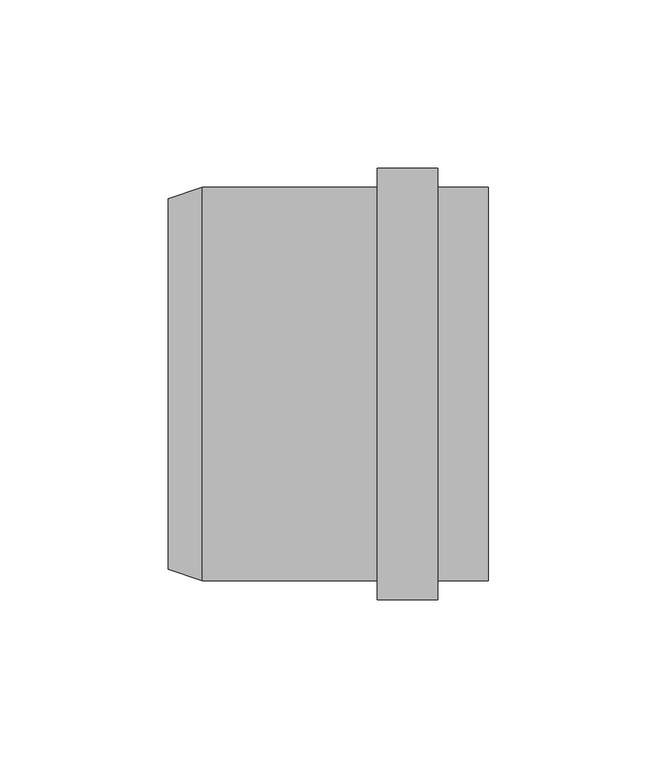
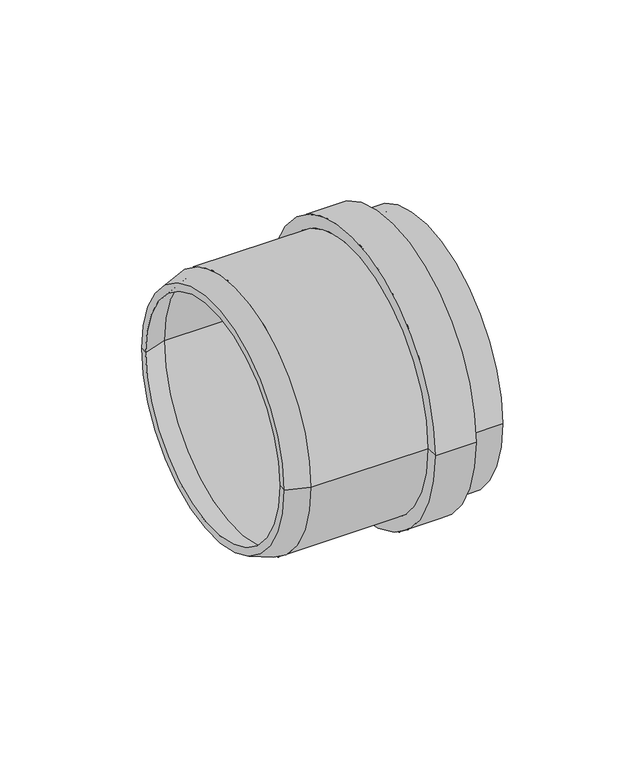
"""IFC4 building model written with IfcOpenShell, lengths in millimetres: pipe fitting geometry, OSMA_KG2000_Hrdlo : Hrdlo."""

import ifcopenshell
import ifcopenshell.guid

model = None  # the IFC model being written
_history = None  # IfcOwnerHistory: only IFC2X3 demands one
_inside = {}  # id of a spatial element -> (the spatial element, [elements in it])
_under = {}  # id of a project, library or spatial element -> (it, [spatial elements below it])
_declared = {}  # id of a project -> (the project, [libraries it declares])
_typed = {}  # id of a type object -> (the type object, [elements of that type])
_made_of = {}  # id of a material, layer set ... -> (it, [elements and type objects made of it])


def new_model(schema):
    """Start an empty IFC model of exactly this schema.

    Asked for "IFC4X3", IfcOpenShell would pick the latest addendum, in which some entities
    have other attributes; the version numbers below select the first issue.
    IFC2X3 requires an IfcOwnerHistory on every rooted entity: one is made here for all.
    """
    global model, _history
    if schema == "IFC4X3":
        model = ifcopenshell.file(schema_version=(4, 3, 0, 0))
    else:
        model = ifcopenshell.file(schema=schema)
    _inside.clear()
    _under.clear()
    _declared.clear()
    _typed.clear()
    _made_of.clear()
    _history = None
    if model.schema == "IFC2X3":
        org = make("IfcOrganization", Name="unknown")
        user = make(
            "IfcPersonAndOrganization",
            ThePerson=make("IfcPerson", FamilyName="unknown"),
            TheOrganization=org,
        )
        app = make(
            "IfcApplication",
            ApplicationDeveloper=org,
            Version="unknown",
            ApplicationFullName="unknown",
            ApplicationIdentifier="unknown",
        )
        _history = make(
            "IfcOwnerHistory",
            OwningUser=user,
            OwningApplication=app,
            ChangeAction="ADDED",
            CreationDate=0,
        )
    return model


def make(cls, **values):
    """One entity of the class cls with the attributes given. An attribute that is None is left unset."""
    return model.create_entity(
        cls, **{name: value for name, value in values.items() if value is not None}
    )


def rooted(cls, **values):
    """An entity with a GlobalId (a new one), such as an element, a storey or a relation."""
    return make(cls, GlobalId=ifcopenshell.guid.new(), OwnerHistory=_history, **values)


def si_unit(unit_type, name, prefix=None):
    """IfcSIUnit, for example si_unit("LENGTHUNIT", "METRE", prefix="MILLI")."""
    return make("IfcSIUnit", UnitType=unit_type, Prefix=prefix, Name=name)


def assignment(units):
    """IfcUnitAssignment: the units of a project."""
    return None if units is None else make("IfcUnitAssignment", Units=units)


def point(xyz):
    """IfcCartesianPoint."""
    return None if xyz is None else make("IfcCartesianPoint", Coordinates=xyz)


def direction(xyz):
    """IfcDirection."""
    return None if xyz is None else make("IfcDirection", DirectionRatios=xyz)


def frame(location, z_axis=None, x_axis=None):
    """IfcAxis2Placement3D, a coordinate frame: its origin and axes. An axis left out is left unset."""
    return make(
        "IfcAxis2Placement3D",
        Location=point(location),
        Axis=direction(z_axis),
        RefDirection=direction(x_axis),
    )


def origin():
    """The frame at (0, 0, 0) with its axes left unset."""
    return frame((0.0, 0.0, 0.0))


def place(relative_to, where):
    """IfcLocalPlacement: puts the frame where relative to a parent placement (None: the world)."""
    return make(
        "IfcLocalPlacement", PlacementRelTo=relative_to, RelativePlacement=where
    )


def context(
    kind, dimensions, precision=None, world=None, true_north=None, identifier=None
):
    """IfcGeometricRepresentationContext, for example the 3D "Model" context."""
    return make(
        "IfcGeometricRepresentationContext",
        ContextIdentifier=identifier,
        ContextType=kind,
        CoordinateSpaceDimension=dimensions,
        Precision=precision,
        WorldCoordinateSystem=world,
        TrueNorth=true_north,
    )


def project(units=None, contexts=None):
    """IfcProject with its units and contexts."""
    return rooted(
        "IfcProject",
        Name="project",
        RepresentationContexts=contexts,
        UnitsInContext=assignment(units),
    )


def spatial(cls, under=None, at=None, **own):
    """A site, building, storey or space (cls), placed at a placement, below another one or the project."""
    s = rooted(cls, ObjectPlacement=at, **own)
    if under is not None:
        _under.setdefault(under.id(), (under, []))[1].append(s)
    return s


def polyline(points):
    """IfcPolyline through the points."""
    return make("IfcPolyline", Points=[point(p) for p in points])


def circle_curve(where, radius):
    """IfcCircle in the frame where."""
    return make("IfcCircle", Position=where, Radius=radius)


def shape(context_of_items, identifier, shape_type, items):
    """IfcShapeRepresentation: the items that make up one representation, for example the "Body"."""
    return make(
        "IfcShapeRepresentation",
        ContextOfItems=context_of_items,
        RepresentationIdentifier=identifier,
        RepresentationType=shape_type,
        Items=items,
    )


def source(mapping_origin, context_of_items, identifier, shape_type, items):
    """IfcRepresentationMap: a shape defined once, which mapped items show again and again."""
    return make(
        "IfcRepresentationMap",
        MappingOrigin=mapping_origin,
        MappedRepresentation=shape(context_of_items, identifier, shape_type, items),
    )


def transform(
    local_origin,
    x_axis=None,
    y_axis=None,
    z_axis=None,
    scale=None,
    scale2=None,
    scale3=None,
    uniform=True,
):
    """IfcCartesianTransformationOperator3D, or its non-uniform kind. x_axis, y_axis, z_axis: its Axis1, 2, 3."""
    if uniform:
        return make(
            "IfcCartesianTransformationOperator3D",
            Axis1=direction(x_axis),
            Axis2=direction(y_axis),
            LocalOrigin=point(local_origin),
            Scale=scale,
            Axis3=direction(z_axis),
        )
    return make(
        "IfcCartesianTransformationOperator3DnonUniform",
        Axis1=direction(x_axis),
        Axis2=direction(y_axis),
        LocalOrigin=point(local_origin),
        Scale=scale,
        Axis3=direction(z_axis),
        Scale2=scale2,
        Scale3=scale3,
    )


def mapped(mapping_source, mapping_target):
    """IfcMappedItem: shows the shape of a source again, moved by a transform."""
    return make(
        "IfcMappedItem", MappingSource=mapping_source, MappingTarget=mapping_target
    )


def made_of(thing, what):
    """Note that an element or type object is made of a material, layer set ...; save() writes the relation."""
    if what is not None:
        _made_of.setdefault(what.id(), (what, []))[1].append(thing)
    return thing


def element(
    cls,
    number,
    at=None,
    inside=None,
    cuts=None,
    type_object=None,
    material=None,
    context=None,
    identifier="Body",
    shape_type=None,
    held_by="IfcProductDefinitionShape",
    body=None,
    shapes=None,
    **own,
):
    """One element of the class cls, such as IfcWall. Its Tag is "e" and its number.

    at: its placement. inside: the storey or other place that contains it. cuts: it is an
    opening in that element (IfcRelVoidsElement). A single representation is given by context,
    identifier, shape_type and body (its items); several are given by shapes. held_by: the class
    of the entity that holds the representations. save() writes the other relations.
    """
    e = rooted(cls, Tag="e%d" % number, ObjectPlacement=at, **own)
    if body is not None:
        shapes = [shape(context, identifier, shape_type, body)]
    if shapes is not None:
        e.Representation = make(held_by, Representations=shapes)
    if inside is not None:
        _inside.setdefault(inside.id(), (inside, []))[1].append(e)
    if cuts is not None:
        rooted(
            "IfcRelVoidsElement", RelatingBuildingElement=cuts, RelatedOpeningElement=e
        )
    if type_object is not None:
        _typed.setdefault(type_object.id(), (type_object, []))[1].append(e)
    return made_of(e, material)


def aggregate(whole, parts):
    """IfcRelAggregates: a whole, such as a stair, and the parts it consists of."""
    return rooted("IfcRelAggregates", RelatingObject=whole, RelatedObjects=parts)


def save(model, path):
    """Write the relations noted so far, then the file.

    IfcRelAggregates (storeys below a building ...), IfcRelContainedInSpatialStructure (elements
    in a storey), IfcRelDefinesByType, IfcRelAssociatesMaterial and IfcRelDeclares: one each for
    every whole, place, type object, material and project.
    """
    for whole, parts in _under.values():
        aggregate(whole, parts)
    for where, things in _inside.values():
        rooted(
            "IfcRelContainedInSpatialStructure",
            RelatedElements=things,
            RelatingStructure=where,
        )
    for kind, things in _typed.values():
        rooted("IfcRelDefinesByType", RelatedObjects=things, RelatingType=kind)
    for what, things in _made_of.values():
        rooted("IfcRelAssociatesMaterial", RelatedObjects=things, RelatingMaterial=what)
    for by, libraries in _declared.values():
        rooted("IfcRelDeclares", RelatingContext=by, RelatedDefinitions=libraries)
    model.write(path)


def plane_surface(at):
    """IfcPlane: the flat surface through the origin of the frame at, square to its z axis."""
    return make("IfcPlane", Position=at)


def cylinder_surface(at, radius):
    """IfcCylindricalSurface: all points at the distance radius from the z axis of the frame at."""
    return make("IfcCylindricalSurface", Position=at, Radius=radius)


def revolved_surface(curve, axis_point, axis_direction):
    """IfcSurfaceOfRevolution: the curve turned about the line through axis_point along axis_direction."""
    return make(
        "IfcSurfaceOfRevolution",
        SweptCurve=make("IfcArbitraryOpenProfileDef", ProfileType="CURVE", Curve=curve),
        AxisPosition=make("IfcAxis1Placement", Location=point(axis_point), Axis=direction(axis_direction)),
    )


def advanced_brep(points, edges, surfaces, faces):
    """IfcAdvancedBrep: a solid bounded by faces that lie on surfaces and meet in shared edges.

    An edge is (start, end): straight between two places in points (the first is 0);
    or (start, end, curve); or (start, end, curve, False) where it runs against its curve.
    A face is (place in surfaces, loops), or (place, loops, False) where it looks against
    its surface's normal. A loop lists edges by number (the first is 1), with a minus sign
    where the edge is run from its end to its start. The first loop is the outer one.
    """
    corners = [point(p) for p in points]
    vertices = [make("IfcVertexPoint", VertexGeometry=c) for c in corners]
    made = []
    for start, end, *more in edges:
        made.append(
            make(
                "IfcEdgeCurve",
                EdgeStart=vertices[start],
                EdgeEnd=vertices[end],
                EdgeGeometry=more[0] if more else make("IfcPolyline", Points=[corners[start], corners[end]]),
                SameSense=more[1] if len(more) > 1 else True,
            )
        )
    hull = []
    for where, loops, *sense in faces:
        bounds = []
        for j, loop in enumerate(loops):
            ring = [make("IfcOrientedEdge", EdgeElement=made[abs(k) - 1], Orientation=k > 0) for k in loop]
            bounds.append(
                make(
                    "IfcFaceOuterBound" if j == 0 else "IfcFaceBound",
                    Bound=make("IfcEdgeLoop", EdgeList=ring),
                    Orientation=True,
                )
            )
        hull.append(make("IfcAdvancedFace", Bounds=bounds, FaceSurface=surfaces[where], SameSense=sense[0] if sense else True))
    return make("IfcAdvancedBrep", Outer=make("IfcClosedShell", CfsFaces=hull))


def pipe_fitting_88fd538e(model_context):
    return source(origin(), model_context, "Body", "AdvancedBrep", [
        advanced_brep(
        [(57.0, -64.0, 0.0), (57.0, 64.0, 0.0), (75.0, 64.0, 0.0), (75.0, -64.0, 0.0), (57.0, -58.4, 0.0), (57.0, 58.4, 0.0), (5.0, -58.4, 0.0), (5.0, 58.4, 0.0), (-5.0, -55.0, 0.0), (-5.0, 55.0, 0.0), (-5.0, -51.6, 0.0), (-5.0, 51.6, 0.0), (5.0, -55.0, 0.0), (5.0, 55.0, 0.0), (90.0, -55.0, 0.0), (90.0, 55.0, 0.0), (90.0, -58.4, 0.0), (90.0, 58.4, 0.0), (75.0, -58.4, 0.0), (75.0, 58.4, 0.0)],
        [
            (0, 1, circle_curve(frame((57.0, 0.0, 0.0), z_axis=(1.0, 0.0, 0.0), x_axis=(0.0, 1.0, 0.0)), 64.0)),
            (1, 2),
            (2, 3, circle_curve(frame((75.0, 0.0, 0.0), z_axis=(-1.0, 0.0, 0.0), x_axis=(0.0, 1.0, 0.0)), 64.0)),
            (3, 0),
            (1, 0, circle_curve(frame((57.0, 0.0, 0.0), z_axis=(1.0, 0.0, 0.0), x_axis=(0.0, 1.0, 0.0)), 64.0)),
            (3, 2, circle_curve(frame((75.0, 0.0, 0.0), z_axis=(-1.0, 0.0, 0.0), x_axis=(0.0, 1.0, 0.0)), 64.0)),
            (4, 5, circle_curve(frame((57.0, 0.0, 0.0), z_axis=(1.0, 0.0, 0.0), x_axis=(0.0, 1.0, 0.0)), 58.4)),
            (5, 1),
            (0, 4),
            (5, 4, circle_curve(frame((57.0, 0.0, 0.0), z_axis=(1.0, 0.0, 0.0), x_axis=(0.0, 1.0, 0.0)), 58.4)),
            (6, 7, circle_curve(frame((5.0, 0.0, 0.0), z_axis=(1.0, 0.0, 0.0), x_axis=(0.0, 1.0, 0.0)), 58.4)),
            (7, 5),
            (4, 6),
            (7, 6, circle_curve(frame((5.0, 0.0, 0.0), z_axis=(1.0, 0.0, 0.0), x_axis=(0.0, 1.0, 0.0)), 58.4)),
            (8, 9, circle_curve(frame((-5.0, 0.0, 0.0), z_axis=(1.0, 0.0, 0.0), x_axis=(0.0, 1.0, 0.0)), 55.0)),
            (9, 7),
            (6, 8),
            (9, 8, circle_curve(frame((-5.0, 0.0, 0.0), z_axis=(1.0, 0.0, 0.0), x_axis=(0.0, 1.0, 0.0)), 55.0)),
            (10, 11, circle_curve(frame((-5.0, 0.0, 0.0), z_axis=(1.0, 0.0, 0.0), x_axis=(0.0, 1.0, 0.0)), 51.6)),
            (11, 9),
            (8, 10),
            (11, 10, circle_curve(frame((-5.0, 0.0, 0.0), z_axis=(1.0, 0.0, 0.0), x_axis=(0.0, 1.0, 0.0)), 51.6)),
            (12, 13, circle_curve(frame((5.0, 0.0, 0.0), z_axis=(1.0, 0.0, 0.0), x_axis=(0.0, 1.0, 0.0)), 55.0)),
            (13, 11),
            (10, 12),
            (13, 12, circle_curve(frame((5.0, 0.0, 0.0), z_axis=(1.0, 0.0, 0.0), x_axis=(0.0, 1.0, 0.0)), 55.0)),
            (14, 15, circle_curve(frame((90.0, 0.0, 0.0), z_axis=(1.0, 0.0, 0.0), x_axis=(0.0, 1.0, 0.0)), 55.0)),
            (15, 13),
            (12, 14),
            (15, 14, circle_curve(frame((90.0, 0.0, 0.0), z_axis=(1.0, 0.0, 0.0), x_axis=(0.0, 1.0, 0.0)), 55.0)),
            (16, 17, circle_curve(frame((90.0, 0.0, 0.0), z_axis=(1.0, 0.0, 0.0), x_axis=(0.0, 1.0, 0.0)), 58.4)),
            (17, 15),
            (14, 16),
            (17, 16, circle_curve(frame((90.0, 0.0, 0.0), z_axis=(1.0, 0.0, 0.0), x_axis=(0.0, 1.0, 0.0)), 58.4)),
            (18, 19, circle_curve(frame((75.0, 0.0, 0.0), z_axis=(1.0, 0.0, 0.0), x_axis=(0.0, 1.0, 0.0)), 58.4)),
            (19, 17),
            (16, 18),
            (19, 18, circle_curve(frame((75.0, 0.0, 0.0), z_axis=(1.0, 0.0, 0.0), x_axis=(0.0, 1.0, 0.0)), 58.4)),
            (2, 19),
            (18, 3),
        ],
        [
            cylinder_surface(frame((370.497004, 0.0, 0.0), z_axis=(-1.0, 0.0, 0.0), x_axis=(0.0, 1.0, 0.0)), 64.0),
            plane_surface(frame((57.0, 0.0, 0.0), z_axis=(-1.0, 0.0, 0.0), x_axis=(0.0, 1.0, 0.0))),
            cylinder_surface(frame((370.497004, 0.0, 0.0), z_axis=(-1.0, 0.0, 0.0), x_axis=(0.0, 1.0, 0.0)), 58.4),
            revolved_surface(polyline([(5.0, 58.4, 0.0), (-5.0, 55.0, 0.0)]), (370.497004, 0.0, 0.0), (-1.0, 0.0, 0.0)),
            plane_surface(frame((-5.0, 0.0, 0.0), z_axis=(-1.0, 0.0, 0.0), x_axis=(0.0, 1.0, 0.0))),
            revolved_surface(polyline([(-5.0, 51.6, 0.0), (5.0, 55.0, 0.0)]), (370.497004, 0.0, 0.0), (-1.0, 0.0, 0.0)),
            revolved_surface(polyline([(5.0, 55.0, 0.0), (90.0, 55.0, 0.0)]), (370.497004, 0.0, 0.0), (-1.0, 0.0, 0.0)),
            plane_surface(frame((90.0, 0.0, 0.0), z_axis=(1.0, 0.0, 0.0), x_axis=(0.0, 1.0, 0.0))),
            plane_surface(frame((75.0, 0.0, 0.0), z_axis=(1.0, 0.0, 0.0), x_axis=(0.0, 1.0, 0.0))),
        ],
        [
            (0, [[1, 2, 3, 4]]),
            (0, [[5, -4, 6, -2]]),
            (1, [[7, 8, -1, 9]]),
            (1, [[10, -9, -5, -8]]),
            (2, [[11, 12, -7, 13]]),
            (2, [[14, -13, -10, -12]]),
            (3, [[15, 16, -11, 17]]),
            (3, [[18, -17, -14, -16]]),
            (4, [[19, 20, -15, 21]]),
            (4, [[22, -21, -18, -20]]),
            (5, [[23, 24, -19, 25]]),
            (5, [[26, -25, -22, -24]]),
            (6, [[27, 28, -23, 29]]),
            (6, [[30, -29, -26, -28]]),
            (7, [[31, 32, -27, 33]]),
            (7, [[34, -33, -30, -32]]),
            (2, [[35, 36, -31, 37]]),
            (2, [[38, -37, -34, -36]]),
            (8, [[-3, 39, -35, 40]]),
            (8, [[-6, -40, -38, -39]]),
        ],
    ),
    ])


if __name__ == "__main__":
    model = new_model("IFC4")
    model_context = context("Model", 3, world=origin())
    ifc_project = project(units=[si_unit("LENGTHUNIT", "METRE", prefix="MILLI")], contexts=[model_context])
    site = spatial("IfcSite", under=ifc_project)
    building = spatial("IfcBuilding", under=site)
    placement = place(None, origin())
    pipe_fitting_shape = pipe_fitting_88fd538e(model_context)
    element("IfcPipeFitting", 1, ObjectType="OSMA_KG2000_Hrdlo : Hrdlo", at=placement, inside=building, context=model_context, shape_type="MappedRepresentation", body=[
        mapped(pipe_fitting_shape, transform((0.0, 0.0, 0.0), x_axis=(1.0, 0.0, 0.0), y_axis=(0.0, 1.0, 0.0), z_axis=(0.0, 0.0, 1.0))),
    ])
    save(model, "model.ifc")
